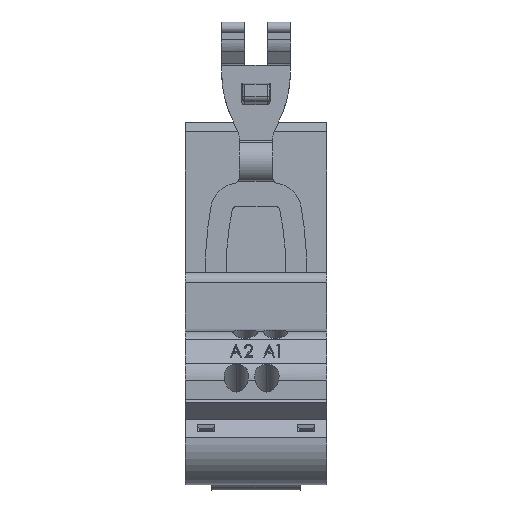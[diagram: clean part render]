
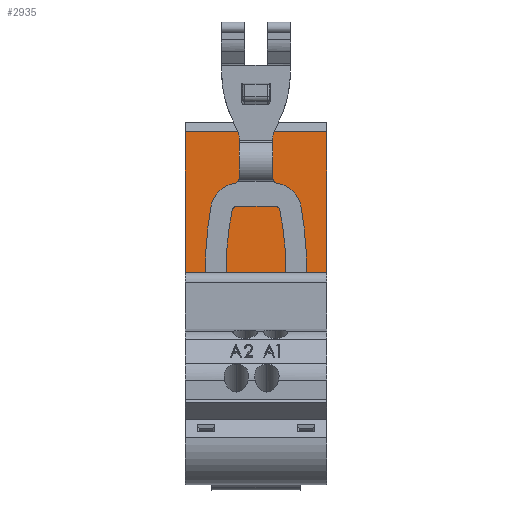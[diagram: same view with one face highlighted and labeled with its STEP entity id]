
A CAD part, front view. The second image highlights one B-rep face of the part: STEP entity #2935.
In plain terms, the highlighted planar face has unit normal (0, -1, 0.018).
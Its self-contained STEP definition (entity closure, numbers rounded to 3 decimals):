
#335 = VECTOR ( 'NONE', #11405, 1000. ) ;
#1403 = ORIENTED_EDGE ( 'NONE', *, *, #6780, .T. ) ;
#2935 = ADVANCED_FACE ( 'NONE', ( #4414 ), #9387, .F. ) ;
#4125 = CARTESIAN_POINT ( 'NONE',  ( 25.5, 54.331, 39.147 ) ) ;
#4414 = FACE_OUTER_BOUND ( 'NONE', #46630, .T. ) ;
#6780 = EDGE_CURVE ( 'NONE', #35108, #20733, #30816, .T. ) ;
#7067 = EDGE_CURVE ( 'NONE', #10115, #20733, #38916, .T. ) ;
#7084 = CARTESIAN_POINT ( 'NONE',  ( 25.5, 54.774, 64.495 ) ) ;
#9132 = VECTOR ( 'NONE', #13020, 1000. ) ;
#9387 = PLANE ( 'NONE',  #18643 ) ;
#10035 = LINE ( 'NONE', #7084, #35156 ) ;
#10115 = VERTEX_POINT ( 'NONE', #4125 ) ;
#11405 = DIRECTION ( 'NONE',  ( -1., 0., 0. ) ) ;
#13020 = DIRECTION ( 'NONE',  ( 0., -0.017, -1. ) ) ;
#14312 = VERTEX_POINT ( 'NONE', #49456 ) ;
#14619 = CARTESIAN_POINT ( 'NONE',  ( 0., 54.774, 64.495 ) ) ;
#15728 = ORIENTED_EDGE ( 'NONE', *, *, #7067, .F. ) ;
#18446 = DIRECTION ( 'NONE',  ( -1., 0., 0. ) ) ;
#18643 = AXIS2_PLACEMENT_3D ( 'NONE', #30589, #37951, #46334 ) ;
#20733 = VERTEX_POINT ( 'NONE', #46864 ) ;
#27161 = DIRECTION ( 'NONE',  ( 0., -0.017, -1. ) ) ;
#27787 = ORIENTED_EDGE ( 'NONE', *, *, #50346, .F. ) ;
#30589 = CARTESIAN_POINT ( 'NONE',  ( 25.5, 54.774, 64.495 ) ) ;
#30816 = LINE ( 'NONE', #14619, #36903 ) ;
#32650 = CARTESIAN_POINT ( 'NONE',  ( 25.5, 54.774, 64.495 ) ) ;
#35108 = VERTEX_POINT ( 'NONE', #41977 ) ;
#35156 = VECTOR ( 'NONE', #18446, 1000. ) ;
#36903 = VECTOR ( 'NONE', #27161, 1000. ) ;
#37951 = DIRECTION ( 'NONE',  ( 0., 1., -0.017 ) ) ;
#38916 = LINE ( 'NONE', #43103, #335 ) ;
#41977 = CARTESIAN_POINT ( 'NONE',  ( 0., 54.774, 64.495 ) ) ;
#43103 = CARTESIAN_POINT ( 'NONE',  ( 25.5, 54.331, 39.147 ) ) ;
#43255 = ORIENTED_EDGE ( 'NONE', *, *, #51708, .T. ) ;
#46334 = DIRECTION ( 'NONE',  ( 0., 0.017, 1. ) ) ;
#46630 = EDGE_LOOP ( 'NONE', ( #1403, #15728, #27787, #43255 ) ) ;
#46864 = CARTESIAN_POINT ( 'NONE',  ( 0., 54.331, 39.147 ) ) ;
#49170 = LINE ( 'NONE', #32650, #9132 ) ;
#49456 = CARTESIAN_POINT ( 'NONE',  ( 25.5, 54.774, 64.495 ) ) ;
#50346 = EDGE_CURVE ( 'NONE', #14312, #10115, #49170, .T. ) ;
#51708 = EDGE_CURVE ( 'NONE', #14312, #35108, #10035, .T. ) ;
